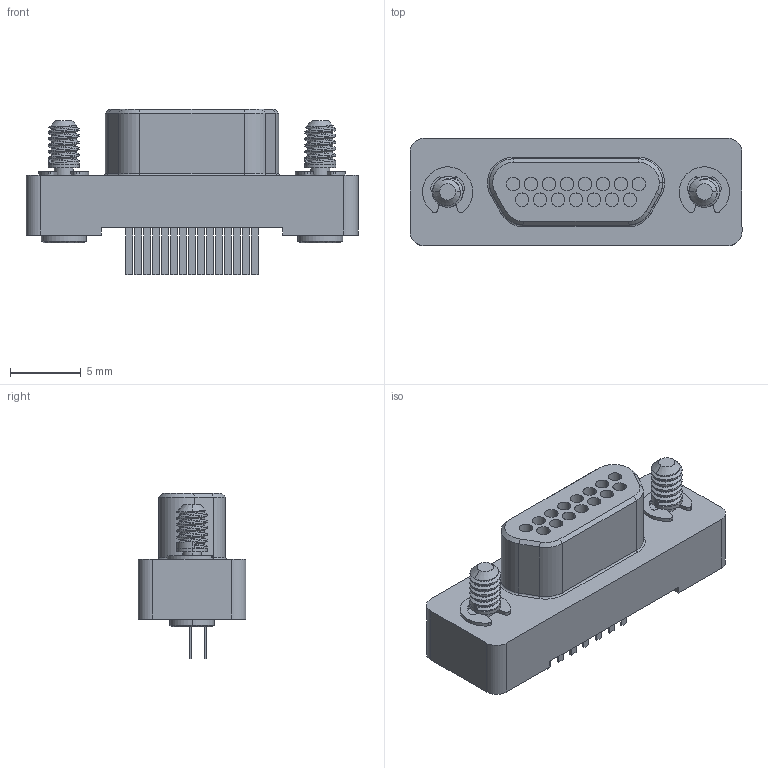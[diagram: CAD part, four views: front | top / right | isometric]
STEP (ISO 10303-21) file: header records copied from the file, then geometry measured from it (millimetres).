
FILE_DESCRIPTION (( 'STEP AP214' ), '1' );
FILE_NAME ('A98061-015 REV C.STEP', '2015-12-28T22:37:56', ( '' ), ( '' ), 'SwSTEP 2.0', 'SolidWorks 2015', '' );
FILE_SCHEMA (( 'AUTOMOTIVE_DESIGN' ));
Length unit declared in the file: inch
Products named in the file (1): A98061-015 REV B
Bounding box: 23.5 x 7.63 x 11.68 mm (x, y, z)
Volume: 897.4 mm3; surface area: 1205.7 mm2
Topology: 1 solids, 1 shells, 514 faces, 1278 edges, 822 vertices
Faces by surface type: plane 265, cylinder 143, bspline 54, cone 47, torus 5
Entity records: 19145 total; most frequent: CARTESIAN_POINT 7143, ORIENTED_EDGE 2556, DIRECTION 2325, EDGE_CURVE 1278, LINE 845, VECTOR 845, VERTEX_POINT 822, AXIS2_PLACEMENT_3D 740
